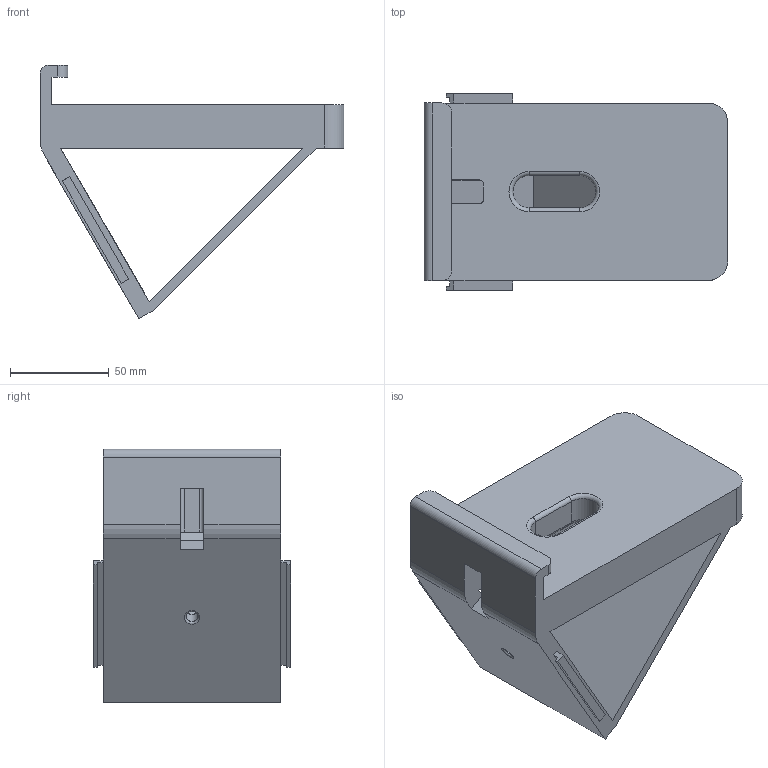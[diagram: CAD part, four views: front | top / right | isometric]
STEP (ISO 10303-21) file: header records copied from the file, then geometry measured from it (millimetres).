
FILE_DESCRIPTION(/* description */ (''),/* implementation_level */ '2;1');
FILE_NAME(/* name */ 'podstawka.stp',/* time_stamp */ '2025-06-05T20:14:07+02:00',/* author */ (''),/* organization */ (''),/* preprocessor_version */ 'ST-DEVELOPER v20',/* originating_system */ 'SIEMENS PLM Software NX2412.3001',/* authorisation */ '');
FILE_SCHEMA (('AUTOMOTIVE_DESIGN { 1 0 10303 214 3 1 1 1 }'));
Length unit declared in the file: millimetre
Products named in the file (1): podstawka
Bounding box: 154 x 100 x 128.6 mm (x, y, z)
Volume: 425568.9 mm3; surface area: 86566.6 mm2
Topology: 1 solids, 1 shells, 65 faces, 182 edges, 117 vertices
Faces by surface type: plane 43, cylinder 16, torus 6
Full cylindrical faces by diameter (mm): 6 x1
Entity records: 2092 total; most frequent: CARTESIAN_POINT 360, ORIENTED_EDGE 356, DIRECTION 350, EDGE_CURVE 178, LINE 138, VECTOR 138, VERTEX_POINT 116, AXIS2_PLACEMENT_3D 106
